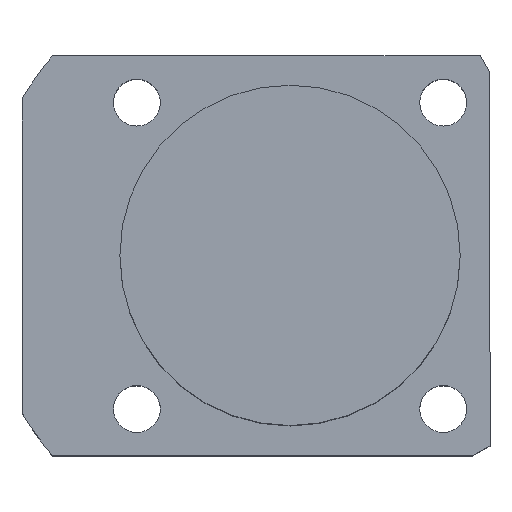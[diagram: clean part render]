
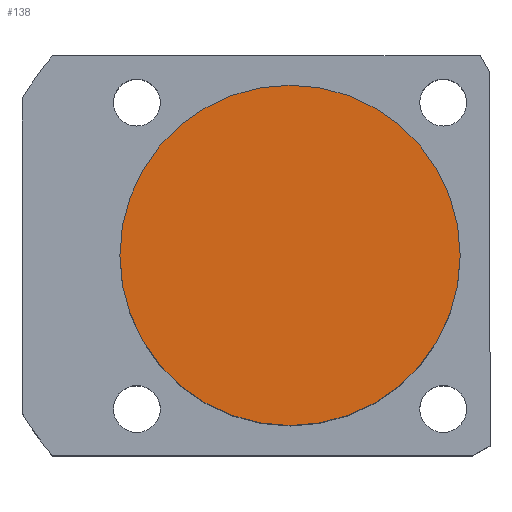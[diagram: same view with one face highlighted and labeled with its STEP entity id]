
A CAD part, top view. The second image highlights one B-rep face of the part: STEP entity #138.
In plain terms, the highlighted planar face has unit normal (0, 0, 1).
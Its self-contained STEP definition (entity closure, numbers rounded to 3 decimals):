
#21 = DIRECTION ( 'NONE',  ( 0., 0., 1. ) ) ;
#34 = CARTESIAN_POINT ( 'NONE',  ( 0., 0., 41.5 ) ) ;
#46 = CARTESIAN_POINT ( 'NONE',  ( 0., 0., 41.5 ) ) ;
#100 = CARTESIAN_POINT ( 'NONE',  ( 20., 0., 41.5 ) ) ;
#138 = ADVANCED_FACE ( 'NONE', ( #965 ), #167, .T. ) ;
#167 = PLANE ( 'NONE',  #787 ) ;
#181 = DIRECTION ( 'NONE',  ( 1., 0., 0. ) ) ;
#197 = AXIS2_PLACEMENT_3D ( 'NONE', #34, #844, #181 ) ;
#245 = VERTEX_POINT ( 'NONE', #870 ) ;
#415 = AXIS2_PLACEMENT_3D ( 'NONE', #1218, #1194, #645 ) ;
#621 = CIRCLE ( 'NONE', #415, 20. ) ;
#645 = DIRECTION ( 'NONE',  ( 1., 0., 0. ) ) ;
#681 = ORIENTED_EDGE ( 'NONE', *, *, #1373, .T. ) ;
#771 = EDGE_CURVE ( 'NONE', #245, #823, #621, .T. ) ;
#787 = AXIS2_PLACEMENT_3D ( 'NONE', #46, #21, #852 ) ;
#823 = VERTEX_POINT ( 'NONE', #100 ) ;
#844 = DIRECTION ( 'NONE',  ( 0., 0., 1. ) ) ;
#852 = DIRECTION ( 'NONE',  ( 1., 0., 0. ) ) ;
#870 = CARTESIAN_POINT ( 'NONE',  ( -20., 0., 41.5 ) ) ;
#965 = FACE_OUTER_BOUND ( 'NONE', #1057, .T. ) ;
#981 = ORIENTED_EDGE ( 'NONE', *, *, #771, .T. ) ;
#1057 = EDGE_LOOP ( 'NONE', ( #981, #681 ) ) ;
#1194 = DIRECTION ( 'NONE',  ( 0., 0., 1. ) ) ;
#1218 = CARTESIAN_POINT ( 'NONE',  ( 0., 0., 41.5 ) ) ;
#1373 = EDGE_CURVE ( 'NONE', #823, #245, #1489, .T. ) ;
#1489 = CIRCLE ( 'NONE', #197, 20. ) ;
